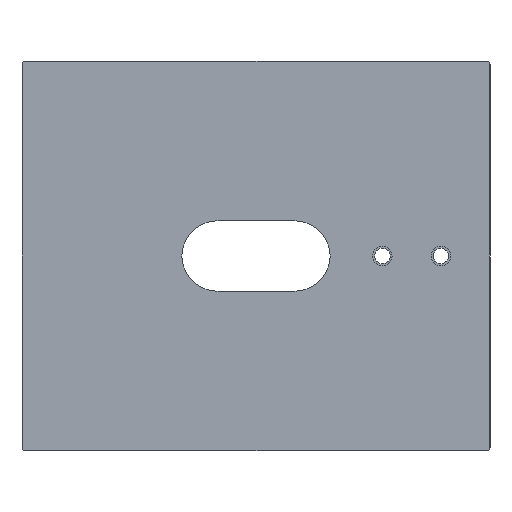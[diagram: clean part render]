
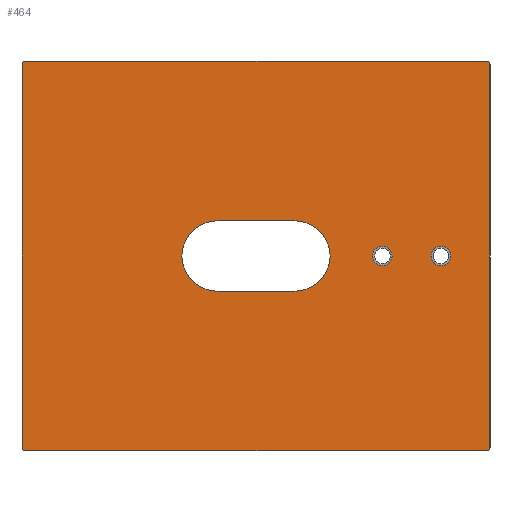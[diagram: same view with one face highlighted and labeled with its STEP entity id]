
A CAD part, front view. The second image highlights one B-rep face of the part: STEP entity #464.
In plain terms, the highlighted planar face has unit normal (0, -1, 0) as drawn and (0, 0, -1) by its records, which use the part's own axes.
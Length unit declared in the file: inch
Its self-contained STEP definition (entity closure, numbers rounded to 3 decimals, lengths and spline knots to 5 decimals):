
#13 = CIRCLE ( 'NONE', #1109, 0.45 ) ;
#23 = CARTESIAN_POINT ( 'NONE',  ( 1.62, 0., 0. ) ) ;
#28 = ORIENTED_EDGE ( 'NONE', *, *, #178, .T. ) ;
#34 = CARTESIAN_POINT ( 'NONE',  ( -0.5, 0.45, 0. ) ) ;
#48 = AXIS2_PLACEMENT_3D ( 'NONE', #576, #212, #801 ) ;
#65 = VECTOR ( 'NONE', #286, 39.37008 ) ;
#75 = CIRCLE ( 'NONE', #1099, 0.125 ) ;
#87 = EDGE_LOOP ( 'NONE', ( #487, #590, #28, #1100, #137 ) ) ;
#96 = DIRECTION ( 'NONE',  ( 1., 0., 0. ) ) ;
#102 = EDGE_CURVE ( 'NONE', #239, #699, #1449, .T. ) ;
#106 = DIRECTION ( 'NONE',  ( 1., 0., 0. ) ) ;
#112 = VERTEX_POINT ( 'NONE', #620 ) ;
#114 = DIRECTION ( 'NONE',  ( 1., 0., 0. ) ) ;
#123 = DIRECTION ( 'NONE',  ( 0., 0., -1. ) ) ;
#134 = DIRECTION ( 'NONE',  ( -1., 0., 0. ) ) ;
#136 = ORIENTED_EDGE ( 'NONE', *, *, #1415, .T. ) ;
#137 = ORIENTED_EDGE ( 'NONE', *, *, #187, .T. ) ;
#155 = EDGE_CURVE ( 'NONE', #915, #1470, #75, .T. ) ;
#158 = AXIS2_PLACEMENT_3D ( 'NONE', #312, #426, #1464 ) ;
#168 = DIRECTION ( 'NONE',  ( 1., 0., 0. ) ) ;
#172 = DIRECTION ( 'NONE',  ( 1., 0., 0. ) ) ;
#178 = EDGE_CURVE ( 'NONE', #1137, #928, #541, .T. ) ;
#179 = CIRCLE ( 'NONE', #988, 0.45 ) ;
#187 = EDGE_CURVE ( 'NONE', #1277, #597, #754, .T. ) ;
#212 = DIRECTION ( 'NONE',  ( 0., 0., -1. ) ) ;
#216 = CARTESIAN_POINT ( 'NONE',  ( -2.95, -2.45, 0. ) ) ;
#239 = VERTEX_POINT ( 'NONE', #1008 ) ;
#255 = CARTESIAN_POINT ( 'NONE',  ( 2.95, 2.5, 0. ) ) ;
#266 = DIRECTION ( 'NONE',  ( 0., 0., 1. ) ) ;
#267 = CARTESIAN_POINT ( 'NONE',  ( 2.95, -2.45, 0. ) ) ;
#268 = ORIENTED_EDGE ( 'NONE', *, *, #862, .F. ) ;
#286 = DIRECTION ( 'NONE',  ( 0., -1., 0. ) ) ;
#287 = EDGE_CURVE ( 'NONE', #667, #1137, #1140, .T. ) ;
#289 = VERTEX_POINT ( 'NONE', #671 ) ;
#300 = CIRCLE ( 'NONE', #48, 0.125 ) ;
#304 = EDGE_CURVE ( 'NONE', #1470, #915, #300, .T. ) ;
#312 = CARTESIAN_POINT ( 'NONE',  ( 2.37, 0., 0. ) ) ;
#331 = FACE_OUTER_BOUND ( 'NONE', #975, .T. ) ;
#335 = EDGE_CURVE ( 'NONE', #916, #402, #1269, .T. ) ;
#341 = CARTESIAN_POINT ( 'NONE',  ( -3., -2.45, 0. ) ) ;
#351 = VERTEX_POINT ( 'NONE', #341 ) ;
#371 = LINE ( 'NONE', #506, #65 ) ;
#402 = VERTEX_POINT ( 'NONE', #694 ) ;
#410 = DIRECTION ( 'NONE',  ( -1., 0., 0. ) ) ;
#426 = DIRECTION ( 'NONE',  ( 0., 0., -1. ) ) ;
#449 = EDGE_LOOP ( 'NONE', ( #1369, #1127 ) ) ;
#451 = VECTOR ( 'NONE', #134, 39.37008 ) ;
#464 = ADVANCED_FACE ( 'NONE', ( #1368, #894, #331, #783 ), #1255, .F. ) ;
#470 = AXIS2_PLACEMENT_3D ( 'NONE', #1002, #644, #1340 ) ;
#487 = ORIENTED_EDGE ( 'NONE', *, *, #1405, .T. ) ;
#502 = EDGE_CURVE ( 'NONE', #239, #896, #715, .T. ) ;
#506 = CARTESIAN_POINT ( 'NONE',  ( -3., -2.5, 0. ) ) ;
#510 = CIRCLE ( 'NONE', #1037, 0.05 ) ;
#516 = CIRCLE ( 'NONE', #924, 0.125 ) ;
#541 = LINE ( 'NONE', #1473, #640 ) ;
#560 = ORIENTED_EDGE ( 'NONE', *, *, #636, .T. ) ;
#566 = CARTESIAN_POINT ( 'NONE',  ( -2.95, 2.45, 0. ) ) ;
#576 = CARTESIAN_POINT ( 'NONE',  ( 1.62, 0., 0. ) ) ;
#585 = CARTESIAN_POINT ( 'NONE',  ( 3., 2.45, 0. ) ) ;
#590 = ORIENTED_EDGE ( 'NONE', *, *, #287, .T. ) ;
#597 = VERTEX_POINT ( 'NONE', #34 ) ;
#620 = CARTESIAN_POINT ( 'NONE',  ( 2.495, 0., 0. ) ) ;
#633 = ORIENTED_EDGE ( 'NONE', *, *, #102, .T. ) ;
#636 = EDGE_CURVE ( 'NONE', #945, #896, #738, .T. ) ;
#640 = VECTOR ( 'NONE', #1360, 39.37008 ) ;
#644 = DIRECTION ( 'NONE',  ( 0., 0., -1. ) ) ;
#664 = AXIS2_PLACEMENT_3D ( 'NONE', #267, #731, #168 ) ;
#667 = VERTEX_POINT ( 'NONE', #1105 ) ;
#670 = DIRECTION ( 'NONE',  ( 0., 0., -1. ) ) ;
#671 = CARTESIAN_POINT ( 'NONE',  ( 2.245, 0., 0. ) ) ;
#674 = CARTESIAN_POINT ( 'NONE',  ( 0., 0., 0. ) ) ;
#692 = LINE ( 'NONE', #702, #451 ) ;
#694 = CARTESIAN_POINT ( 'NONE',  ( -2.95, 2.5, 0. ) ) ;
#699 = VERTEX_POINT ( 'NONE', #1474 ) ;
#702 = CARTESIAN_POINT ( 'NONE',  ( 3., 2.5, 0. ) ) ;
#705 = VECTOR ( 'NONE', #1478, 39.37008 ) ;
#715 = LINE ( 'NONE', #1422, #1149 ) ;
#720 = EDGE_CURVE ( 'NONE', #289, #112, #516, .T. ) ;
#723 = CARTESIAN_POINT ( 'NONE',  ( 0.5, 0., 0. ) ) ;
#731 = DIRECTION ( 'NONE',  ( 0., 0., -1. ) ) ;
#738 = CIRCLE ( 'NONE', #470, 0.05 ) ;
#754 = LINE ( 'NONE', #868, #756 ) ;
#756 = VECTOR ( 'NONE', #410, 39.37008 ) ;
#783 = FACE_BOUND ( 'NONE', #87, .T. ) ;
#786 = ORIENTED_EDGE ( 'NONE', *, *, #502, .F. ) ;
#791 = LINE ( 'NONE', #1385, #705 ) ;
#799 = DIRECTION ( 'NONE',  ( 0., 0., -1. ) ) ;
#801 = DIRECTION ( 'NONE',  ( -1., 0., 0. ) ) ;
#841 = DIRECTION ( 'NONE',  ( 0., 1., 0. ) ) ;
#849 = ORIENTED_EDGE ( 'NONE', *, *, #155, .F. ) ;
#862 = EDGE_CURVE ( 'NONE', #945, #402, #692, .T. ) ;
#865 = DIRECTION ( 'NONE',  ( 0., 0., -1. ) ) ;
#868 = CARTESIAN_POINT ( 'NONE',  ( -0.5, 0.45, 0. ) ) ;
#869 = CARTESIAN_POINT ( 'NONE',  ( 2.37, 0., 0. ) ) ;
#894 = FACE_BOUND ( 'NONE', #449, .T. ) ;
#896 = VERTEX_POINT ( 'NONE', #585 ) ;
#902 = CARTESIAN_POINT ( 'NONE',  ( -3., 2.45, 0. ) ) ;
#915 = VERTEX_POINT ( 'NONE', #921 ) ;
#916 = VERTEX_POINT ( 'NONE', #902 ) ;
#921 = CARTESIAN_POINT ( 'NONE',  ( 1.745, 0., 0. ) ) ;
#924 = AXIS2_PLACEMENT_3D ( 'NONE', #869, #865, #1327 ) ;
#928 = VERTEX_POINT ( 'NONE', #1171 ) ;
#941 = CARTESIAN_POINT ( 'NONE',  ( -0.5, -0.45, 0. ) ) ;
#945 = VERTEX_POINT ( 'NONE', #255 ) ;
#950 = AXIS2_PLACEMENT_3D ( 'NONE', #566, #123, #1126 ) ;
#957 = CARTESIAN_POINT ( 'NONE',  ( -2.95, -2.5, 0. ) ) ;
#965 = CIRCLE ( 'NONE', #158, 0.125 ) ;
#975 = EDGE_LOOP ( 'NONE', ( #1168, #136, #1033, #1146, #268, #560, #786, #633 ) ) ;
#988 = AXIS2_PLACEMENT_3D ( 'NONE', #1115, #1472, #114 ) ;
#1002 = CARTESIAN_POINT ( 'NONE',  ( 2.95, 2.45, 0. ) ) ;
#1008 = CARTESIAN_POINT ( 'NONE',  ( 3., -2.45, 0. ) ) ;
#1033 = ORIENTED_EDGE ( 'NONE', *, *, #1067, .F. ) ;
#1037 = AXIS2_PLACEMENT_3D ( 'NONE', #216, #670, #1133 ) ;
#1059 = EDGE_CURVE ( 'NONE', #928, #1277, #13, .T. ) ;
#1067 = EDGE_CURVE ( 'NONE', #916, #351, #371, .T. ) ;
#1091 = VERTEX_POINT ( 'NONE', #957 ) ;
#1099 = AXIS2_PLACEMENT_3D ( 'NONE', #23, #799, #1272 ) ;
#1100 = ORIENTED_EDGE ( 'NONE', *, *, #1059, .T. ) ;
#1105 = CARTESIAN_POINT ( 'NONE',  ( -0.95, 0., 0. ) ) ;
#1109 = AXIS2_PLACEMENT_3D ( 'NONE', #723, #266, #172 ) ;
#1115 = CARTESIAN_POINT ( 'NONE',  ( -0.5, 0., 0. ) ) ;
#1119 = ORIENTED_EDGE ( 'NONE', *, *, #304, .F. ) ;
#1124 = CARTESIAN_POINT ( 'NONE',  ( -0.5, 0., 0. ) ) ;
#1126 = DIRECTION ( 'NONE',  ( 1., 0., 0. ) ) ;
#1127 = ORIENTED_EDGE ( 'NONE', *, *, #1352, .F. ) ;
#1133 = DIRECTION ( 'NONE',  ( 1., 0., 0. ) ) ;
#1136 = DIRECTION ( 'NONE',  ( 0., 0., 1. ) ) ;
#1137 = VERTEX_POINT ( 'NONE', #941 ) ;
#1140 = CIRCLE ( 'NONE', #1482, 0.45 ) ;
#1146 = ORIENTED_EDGE ( 'NONE', *, *, #335, .T. ) ;
#1149 = VECTOR ( 'NONE', #841, 39.37008 ) ;
#1166 = EDGE_LOOP ( 'NONE', ( #1119, #849 ) ) ;
#1168 = ORIENTED_EDGE ( 'NONE', *, *, #1363, .F. ) ;
#1171 = CARTESIAN_POINT ( 'NONE',  ( 0.5, -0.45, 0. ) ) ;
#1203 = AXIS2_PLACEMENT_3D ( 'NONE', #674, #1136, #106 ) ;
#1233 = CARTESIAN_POINT ( 'NONE',  ( 0.5, 0.45, 0. ) ) ;
#1255 = PLANE ( 'NONE',  #1203 ) ;
#1269 = CIRCLE ( 'NONE', #950, 0.05 ) ;
#1272 = DIRECTION ( 'NONE',  ( -1., 0., 0. ) ) ;
#1277 = VERTEX_POINT ( 'NONE', #1233 ) ;
#1280 = CARTESIAN_POINT ( 'NONE',  ( 1.495, 0., 0. ) ) ;
#1327 = DIRECTION ( 'NONE',  ( -1., 0., 0. ) ) ;
#1340 = DIRECTION ( 'NONE',  ( 1., 0., 0. ) ) ;
#1352 = EDGE_CURVE ( 'NONE', #112, #289, #965, .T. ) ;
#1360 = DIRECTION ( 'NONE',  ( 1., 0., 0. ) ) ;
#1363 = EDGE_CURVE ( 'NONE', #1091, #699, #791, .T. ) ;
#1368 = FACE_BOUND ( 'NONE', #1166, .T. ) ;
#1369 = ORIENTED_EDGE ( 'NONE', *, *, #720, .F. ) ;
#1385 = CARTESIAN_POINT ( 'NONE',  ( 3., -2.5, 0. ) ) ;
#1405 = EDGE_CURVE ( 'NONE', #597, #667, #179, .T. ) ;
#1415 = EDGE_CURVE ( 'NONE', #1091, #351, #510, .T. ) ;
#1422 = CARTESIAN_POINT ( 'NONE',  ( 3., -2.5, 0. ) ) ;
#1449 = CIRCLE ( 'NONE', #664, 0.05 ) ;
#1464 = DIRECTION ( 'NONE',  ( -1., 0., 0. ) ) ;
#1470 = VERTEX_POINT ( 'NONE', #1280 ) ;
#1472 = DIRECTION ( 'NONE',  ( 0., 0., 1. ) ) ;
#1473 = CARTESIAN_POINT ( 'NONE',  ( -0.5, -0.45, 0. ) ) ;
#1474 = CARTESIAN_POINT ( 'NONE',  ( 2.95, -2.5, 0. ) ) ;
#1478 = DIRECTION ( 'NONE',  ( 1., 0., 0. ) ) ;
#1479 = DIRECTION ( 'NONE',  ( 0., 0., 1. ) ) ;
#1482 = AXIS2_PLACEMENT_3D ( 'NONE', #1124, #1479, #96 ) ;
